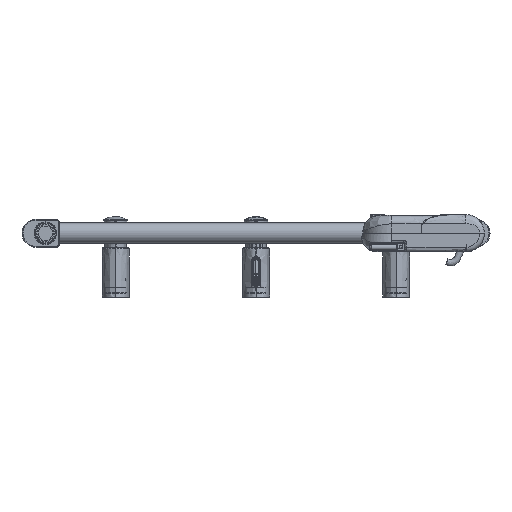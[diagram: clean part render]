
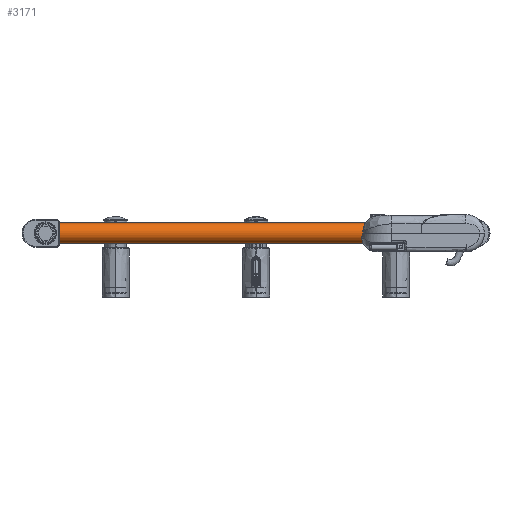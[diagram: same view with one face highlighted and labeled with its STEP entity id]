
A CAD part, front view. The second image highlights one B-rep face of the part: STEP entity #3171.
In plain terms, the highlighted cylindrical face has radius 11 mm (diameter 22 mm), a partial arc.
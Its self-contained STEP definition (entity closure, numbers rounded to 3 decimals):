
#319=CARTESIAN_POINT('',(210.,-858.,0.));
#320=DIRECTION('',(1.,0.,0.));
#321=DIRECTION('',(0.,0.,1.));
#322=AXIS2_PLACEMENT_3D('',#319,#320,#321);
#952=DIRECTION('',(1.,0.,0.));
#953=VECTOR('',#952,420.);
#954=CARTESIAN_POINT('',(-210.,-858.,-11.));
#955=LINE('',#954,#953);
#959=DIRECTION('',(1.,0.,0.));
#960=VECTOR('',#959,420.);
#961=CARTESIAN_POINT('',(-210.,-858.,11.));
#962=LINE('',#961,#960);
#1002=CARTESIAN_POINT('',(-210.,-858.,0.));
#1003=DIRECTION('',(1.,0.,0.));
#1004=DIRECTION('',(0.,0.,1.));
#1005=AXIS2_PLACEMENT_3D('',#1002,#1003,#1004);
#2328=CARTESIAN_POINT('',(-210.,-858.,-11.));
#2329=CARTESIAN_POINT('',(210.,-858.,-11.));
#2330=VERTEX_POINT('',#2328);
#2331=VERTEX_POINT('',#2329);
#2332=CARTESIAN_POINT('',(-210.,-858.,11.));
#2333=CARTESIAN_POINT('',(210.,-858.,11.));
#2334=VERTEX_POINT('',#2332);
#2335=VERTEX_POINT('',#2333);
#3159=CARTESIAN_POINT('',(-300.,-858.,0.));
#3160=DIRECTION('',(1.,0.,0.));
#3161=DIRECTION('',(0.,0.,-1.));
#3162=AXIS2_PLACEMENT_3D('',#3159,#3160,#3161);
#3163=CYLINDRICAL_SURFACE('',#3162,11.);
#3164=ORIENTED_EDGE('',*,*,#3149,.F.);
#3166=ORIENTED_EDGE('',*,*,#3165,.F.);
#3167=ORIENTED_EDGE('',*,*,#3152,.T.);
#3168=ORIENTED_EDGE('',*,*,#2784,.T.);
#3169=EDGE_LOOP('',(#3164,#3166,#3167,#3168));
#3170=FACE_OUTER_BOUND('',#3169,.F.);
#323=CIRCLE('',#322,11.);
#1006=CIRCLE('',#1005,11.);
#2784=EDGE_CURVE('',#2335,#2331,#323,.T.);
#3149=EDGE_CURVE('',#2330,#2331,#955,.T.);
#3152=EDGE_CURVE('',#2334,#2335,#962,.T.);
#3165=EDGE_CURVE('',#2334,#2330,#1006,.T.);
#3171=ADVANCED_FACE('',(#3170),#3163,.T.);
